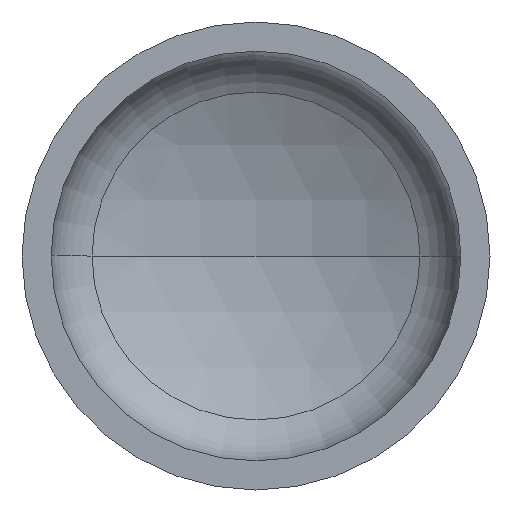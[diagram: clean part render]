
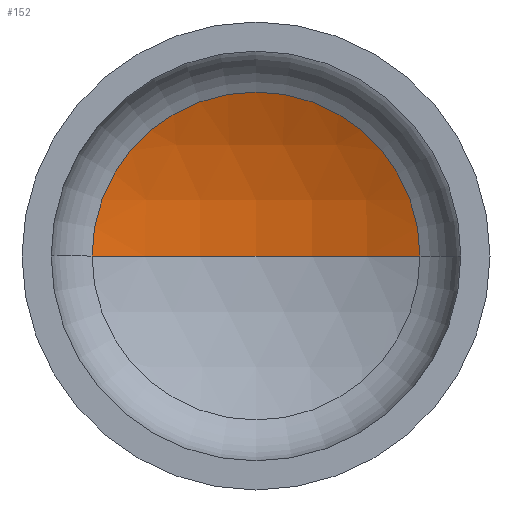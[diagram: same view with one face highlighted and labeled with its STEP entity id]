
A CAD part, front view. The second image highlights one B-rep face of the part: STEP entity #152.
In plain terms, the highlighted spherical face has radius 720 mm.
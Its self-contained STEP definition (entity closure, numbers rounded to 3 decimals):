
#21 = ORIENTED_EDGE ( 'NONE', *, *, #186, .T. ) ;
#27 = CARTESIAN_POINT ( 'NONE',  ( 0., 245.861, 0. ) ) ;
#32 = VERTEX_POINT ( 'NONE', #348 ) ;
#65 = ORIENTED_EDGE ( 'NONE', *, *, #190, .T. ) ;
#87 = VERTEX_POINT ( 'NONE', #228 ) ;
#96 = ORIENTED_EDGE ( 'NONE', *, *, #194, .F. ) ;
#103 = DIRECTION ( 'NONE',  ( 1., 0., 0. ) ) ;
#120 = AXIS2_PLACEMENT_3D ( 'NONE', #176, #192, #279 ) ;
#126 = AXIS2_PLACEMENT_3D ( 'NONE', #394, #351, #181 ) ;
#136 = AXIS2_PLACEMENT_3D ( 'NONE', #27, #284, #103 ) ;
#152 = ADVANCED_FACE ( 'NONE', ( #221 ), #346, .F. ) ;
#163 = VERTEX_POINT ( 'NONE', #233 ) ;
#165 = AXIS2_PLACEMENT_3D ( 'NONE', #326, #324, #322 ) ;
#176 = CARTESIAN_POINT ( 'NONE',  ( 0., -401.425, 0. ) ) ;
#181 = DIRECTION ( 'NONE',  ( -1., 0., 0. ) ) ;
#186 = EDGE_CURVE ( 'NONE', #163, #87, #271, .T. ) ;
#190 = EDGE_CURVE ( 'NONE', #32, #163, #203, .T. ) ;
#192 = DIRECTION ( 'NONE',  ( 0., 0., 1. ) ) ;
#194 = EDGE_CURVE ( 'NONE', #32, #87, #384, .T. ) ;
#203 = CIRCLE ( 'NONE', #126, 720. ) ;
#221 = FACE_OUTER_BOUND ( 'NONE', #361, .T. ) ;
#228 = CARTESIAN_POINT ( 'NONE',  ( -315.31, 245.861, 0. ) ) ;
#233 = CARTESIAN_POINT ( 'NONE',  ( 315.31, 245.861, 0. ) ) ;
#271 = CIRCLE ( 'NONE', #136, 315.31 ) ;
#279 = DIRECTION ( 'NONE',  ( 1., 0., 0. ) ) ;
#284 = DIRECTION ( 'NONE',  ( 0., -1., 0. ) ) ;
#322 = DIRECTION ( 'NONE',  ( -1., 0., 0. ) ) ;
#324 = DIRECTION ( 'NONE',  ( 0., 0., -1. ) ) ;
#326 = CARTESIAN_POINT ( 'NONE',  ( 0., -401.425, 0. ) ) ;
#346 = SPHERICAL_SURFACE ( 'NONE', #165, 720. ) ;
#348 = CARTESIAN_POINT ( 'NONE',  ( 0., 318.575, 0. ) ) ;
#351 = DIRECTION ( 'NONE',  ( 0., 0., -1. ) ) ;
#361 = EDGE_LOOP ( 'NONE', ( #96, #65, #21 ) ) ;
#384 = CIRCLE ( 'NONE', #120, 720. ) ;
#394 = CARTESIAN_POINT ( 'NONE',  ( 0., -401.425, 0. ) ) ;
